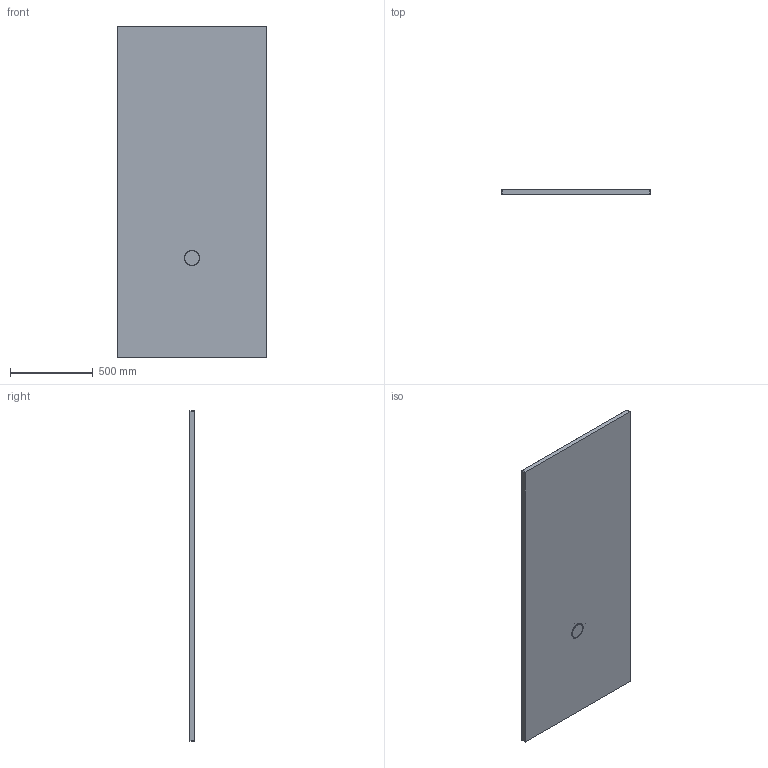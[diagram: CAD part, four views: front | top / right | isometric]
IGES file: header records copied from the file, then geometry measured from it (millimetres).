
Start section: SolidWorks IGES file using analytic representation for surfaces
Global section: file name: D:\Users\M.Szymanski\Desktop\Brodziki\Nias\B_M_NIAS_200x90x1,5.IGS; native system: SolidWorks 2011; preprocessor: SolidWorks 2011; author: M.Szymanski; date: 180222.142725; units: millimetre
Bounding box: 900 x 30 x 2000 mm (x, y, z)
Surface area: 3788437.2 mm2 (no closed solid volume)
Topology: 0 solids, 0 shells, 45 faces, 674 edges, 673 vertices
Faces by surface type: bspline 25, revolution 20
